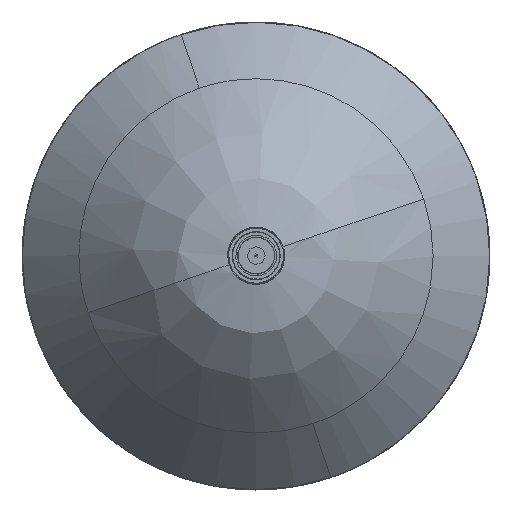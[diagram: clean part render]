
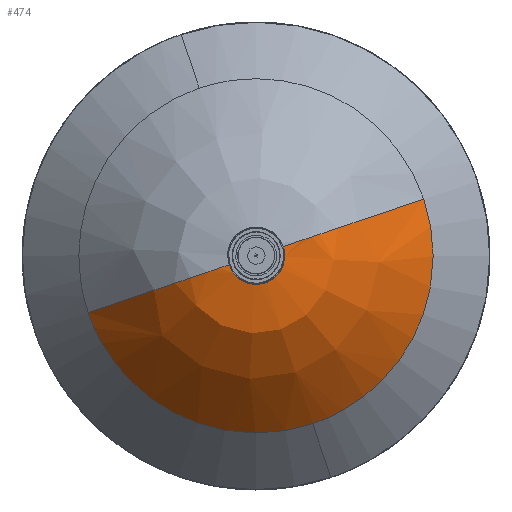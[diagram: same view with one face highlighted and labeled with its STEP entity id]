
A CAD part, top view. The second image highlights one B-rep face of the part: STEP entity #474.
In plain terms, the highlighted free-form (B-spline) face has degree [3, 2] with [4, 5] control points.
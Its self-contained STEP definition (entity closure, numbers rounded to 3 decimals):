
#474=ADVANCED_FACE('',(#788),#4434,.T.);
#788=FACE_OUTER_BOUND('',#1101,.T.);
#1101=EDGE_LOOP('',(#2397,#2398,#2399,#2400,#2401));
#2397=ORIENTED_EDGE('',*,*,#3167,.T.);
#2398=ORIENTED_EDGE('',*,*,#3168,.T.);
#2399=ORIENTED_EDGE('',*,*,#3130,.F.);
#2400=ORIENTED_EDGE('',*,*,#3156,.F.);
#2401=ORIENTED_EDGE('',*,*,#3155,.F.);
#3130=EDGE_CURVE('',#4268,#4267,#3357,.T.);
#3155=EDGE_CURVE('',#4269,#4286,#3853,.T.);
#3156=EDGE_CURVE('',#4286,#4268,#3854,.T.);
#3167=EDGE_CURVE('',#4269,#4292,#3856,.T.);
#3168=EDGE_CURVE('',#4292,#4267,#3368,.T.);
#3357=B_SPLINE_CURVE_WITH_KNOTS('',3,(#17028,#17029,#17030,#17031),
 .UNSPECIFIED.,.F.,.F.,(4,4),(0.,257.233),
 .UNSPECIFIED.);
#3368=B_SPLINE_CURVE_WITH_KNOTS('',3,(#17182,#17183,#17184,#17185,#17186,
#17187,#17188,#17189,#17190,#17191,#17192),.UNSPECIFIED.,.F.,.F.,(4,1,1,
1,1,1,1,1,4),(-91.438,-78.375,-69.667,-60.958,
-52.25,-43.542,-26.125,-13.063,
0.),.UNSPECIFIED.);
#3853=(
BOUNDED_CURVE()
B_SPLINE_CURVE(2,(#17113,#17114,#17115),.UNSPECIFIED.,.F.,.F.)
B_SPLINE_CURVE_WITH_KNOTS((3,3),(0.,291.384),.UNSPECIFIED.)
CURVE()
GEOMETRIC_REPRESENTATION_ITEM()
RATIONAL_B_SPLINE_CURVE((1.,0.707,1.))
REPRESENTATION_ITEM('')
);
#3854=(
BOUNDED_CURVE()
B_SPLINE_CURVE(2,(#17116,#17117,#17118),.UNSPECIFIED.,.F.,.F.)
B_SPLINE_CURVE_WITH_KNOTS((3,3),(291.384,582.767),
 .UNSPECIFIED.)
CURVE()
GEOMETRIC_REPRESENTATION_ITEM()
RATIONAL_B_SPLINE_CURVE((1.,0.707,1.))
REPRESENTATION_ITEM('')
);
#3856=(
BOUNDED_CURVE()
B_SPLINE_CURVE(3,(#17178,#17179,#17180,#17181),.UNSPECIFIED.,.F.,.F.)
B_SPLINE_CURVE_WITH_KNOTS((4,4),(0.,256.744),
 .UNSPECIFIED.)
CURVE()
GEOMETRIC_REPRESENTATION_ITEM()
RATIONAL_B_SPLINE_CURVE((1.,1.,1.,1.))
REPRESENTATION_ITEM('')
);
#4267=VERTEX_POINT('',#16906);
#4268=VERTEX_POINT('',#16907);
#4269=VERTEX_POINT('',#16908);
#4286=VERTEX_POINT('',#16925);
#4292=VERTEX_POINT('',#16931);
#4434=(
BOUNDED_SURFACE()
B_SPLINE_SURFACE(3,2,((#16169,#16170,#16171,#16172,#16173),(#16174,#16175,
#16176,#16177,#16178),(#16179,#16180,#16181,#16182,#16183),(#16184,#16185,
#16186,#16187,#16188)),.UNSPECIFIED.,.F.,.F.,.F.)
B_SPLINE_SURFACE_WITH_KNOTS((4,4),(3,2,3),(0.,259.951),
(742.002,1113.003,1484.004),.UNSPECIFIED.)
GEOMETRIC_REPRESENTATION_ITEM()
RATIONAL_B_SPLINE_SURFACE(((1.,0.707,1.,0.707,1.),
(1.,0.707,1.,0.707,1.),(1.,0.707,1.,
0.707,1.),(1.,0.707,1.,0.707,1.)))
REPRESENTATION_ITEM('')
SURFACE()
);
#16169=CARTESIAN_POINT('',(0.,-185.328,-104.067));
#16170=CARTESIAN_POINT('',(-185.501,-185.328,-104.067));
#16171=CARTESIAN_POINT('',(-185.501,0.172,-104.067));
#16172=CARTESIAN_POINT('',(-185.501,185.673,-104.067));
#16173=CARTESIAN_POINT('',(0.,185.673,-104.067));
#16174=CARTESIAN_POINT('',(0.,-118.654,-32.662));
#16175=CARTESIAN_POINT('',(-118.826,-118.654,-32.662));
#16176=CARTESIAN_POINT('',(-118.826,0.172,-32.662));
#16177=CARTESIAN_POINT('',(-118.826,118.999,-32.662));
#16178=CARTESIAN_POINT('',(0.,118.999,-32.662));
#16179=CARTESIAN_POINT('',(0.,-88.157,0.));
#16180=CARTESIAN_POINT('',(-88.329,-88.157,0.));
#16181=CARTESIAN_POINT('',(-88.329,0.172,0.));
#16182=CARTESIAN_POINT('',(-88.329,88.501,0.));
#16183=CARTESIAN_POINT('',(0.,88.501,0.));
#16184=CARTESIAN_POINT('',(0.,-26.234,0.));
#16185=CARTESIAN_POINT('',(-26.406,-26.234,0.));
#16186=CARTESIAN_POINT('',(-26.406,0.172,0.));
#16187=CARTESIAN_POINT('',(-26.406,26.579,0.));
#16188=CARTESIAN_POINT('',(0.,26.579,0.));
#16906=CARTESIAN_POINT('',(0.,28.511,-0.011));
#16907=CARTESIAN_POINT('',(0.,185.673,-104.067));
#16908=CARTESIAN_POINT('',(0.,-185.328,-104.067));
#16925=CARTESIAN_POINT('',(-185.501,0.172,-104.067));
#16931=CARTESIAN_POINT('',(0.,-28.512,-0.015));
#17028=CARTESIAN_POINT('',(0.,185.673,-104.067));
#17029=CARTESIAN_POINT('',(0.,119.696,-33.408));
#17030=CARTESIAN_POINT('',(0.,89.143,-0.687));
#17031=CARTESIAN_POINT('',(0.,28.511,-0.011));
#17113=CARTESIAN_POINT('',(0.,-185.328,-104.067));
#17114=CARTESIAN_POINT('',(-185.501,-185.328,-104.067));
#17115=CARTESIAN_POINT('',(-185.501,0.172,-104.067));
#17116=CARTESIAN_POINT('',(-185.501,0.172,-104.067));
#17117=CARTESIAN_POINT('',(-185.501,185.673,-104.067));
#17118=CARTESIAN_POINT('',(0.,185.673,-104.067));
#17178=CARTESIAN_POINT('',(0.,-185.328,-104.067));
#17179=CARTESIAN_POINT('',(0.,-119.476,-33.543));
#17180=CARTESIAN_POINT('',(0.,-88.915,-0.812));
#17181=CARTESIAN_POINT('',(0.,-28.512,-0.015));
#17182=CARTESIAN_POINT('',(0.,-28.512,-0.015));
#17183=CARTESIAN_POINT('',(-4.265,-28.503,-0.015));
#17184=CARTESIAN_POINT('',(-11.373,-26.902,-0.015));
#17185=CARTESIAN_POINT('',(-19.683,-21.209,-0.014));
#17186=CARTESIAN_POINT('',(-25.068,-14.473,-0.014));
#17187=CARTESIAN_POINT('',(-28.208,-6.441,-0.013));
#17188=CARTESIAN_POINT('',(-29.096,5.037,-0.012));
#17189=CARTESIAN_POINT('',(-24.21,17.48,-0.011));
#17190=CARTESIAN_POINT('',(-12.785,26.565,-0.011));
#17191=CARTESIAN_POINT('',(-4.265,28.511,-0.011));
#17192=CARTESIAN_POINT('',(0.,28.511,-0.011));
